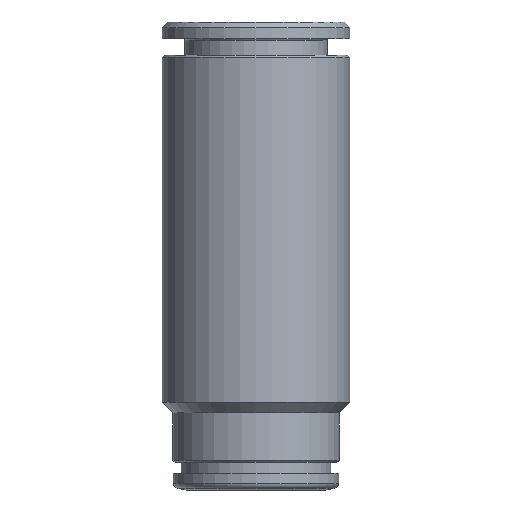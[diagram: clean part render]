
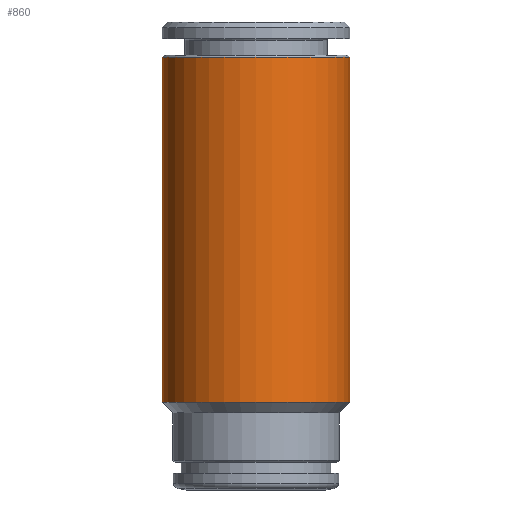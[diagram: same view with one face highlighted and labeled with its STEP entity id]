
A CAD part, front view. The second image highlights one B-rep face of the part: STEP entity #860.
In plain terms, the highlighted cylindrical face has radius 8.5 mm (diameter 17 mm), a full revolution.
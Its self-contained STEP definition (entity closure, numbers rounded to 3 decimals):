
#860=ADVANCED_FACE('', (#870,#880), #890, .T.);
#3660=AXIS2_PLACEMENT_3D('Ax2Pl3d', #3670, #3680, #3690);
#3700=AXIS2_PLACEMENT_3D('Ax2Pl3d', #3710, #3720, #3730);
#3740=AXIS2_PLACEMENT_3D('Ax2Pl3d', #3750, #3760, #3770);
#3670=CARTESIAN_POINT('HicPkt', (19.762,16.447,
43.894));
#6610=CARTESIAN_POINT('', (11.262,16.447,43.894));
#3710=CARTESIAN_POINT('HicPkt', (19.762,16.447,
12.544));
#3750=CARTESIAN_POINT('HicPkt', (19.762,16.447,
12.544));
#6620=CARTESIAN_POINT('', (11.262,16.447,12.544));
#7110=CIRCLE('Circle', #3660, 8.5);
#7120=CIRCLE('Circle', #3740, 8.5);
#890=CYLINDRICAL_SURFACE('Zyl', #3700, 8.5);
#3680=DIRECTION('Axis', (0.,0.,-1.));
#3690=DIRECTION('RefDirection', (-1.,-0.,0.));
#3720=DIRECTION('Axis', (0.,0.,1.));
#3730=DIRECTION('RefDirection', (1.,0.,-0.));
#3760=DIRECTION('Axis', (0.,0.,-1.));
#3770=DIRECTION('RefDirection', (-1.,-0.,0.));
#9440=EDGE_CURVE('', #9450, #9450, #7110, .T.);
#9460=EDGE_CURVE('', #9470, #9470, #7120, .T.);
#10800=EDGE_LOOP('Edge_loop', (#10810));
#10820=EDGE_LOOP('Edge_loop', (#10830));
#880=FACE_BOUND('', #10820, .T.);
#870=FACE_OUTER_BOUND('Face_outer_bound', #10800, .T.);
#10810=ORIENTED_EDGE('', *, *, #9440, .T.);
#10830=ORIENTED_EDGE('', *, *, #9460, .F.);
#9450=VERTEX_POINT('', #6610);
#9470=VERTEX_POINT('', #6620);
